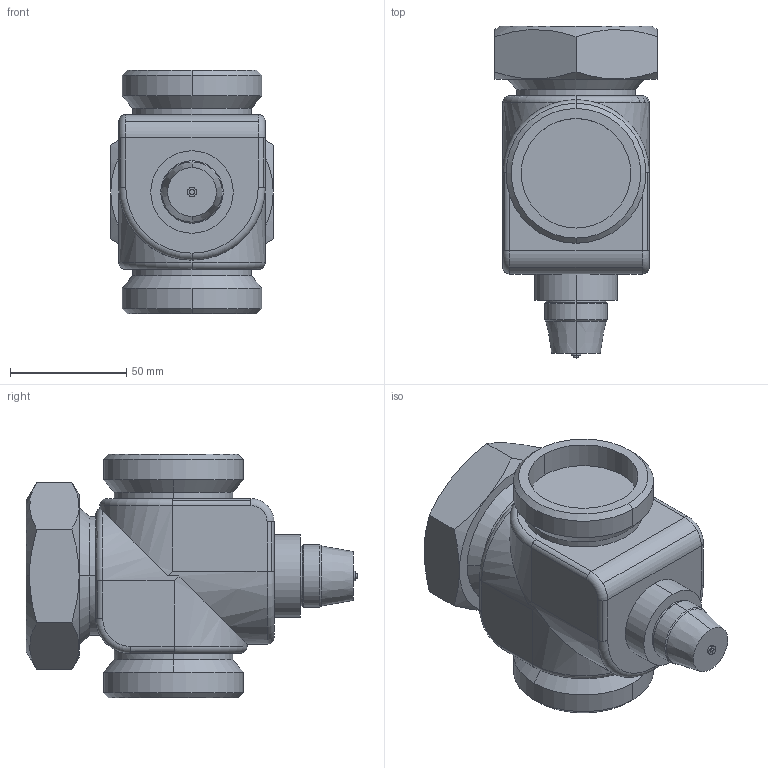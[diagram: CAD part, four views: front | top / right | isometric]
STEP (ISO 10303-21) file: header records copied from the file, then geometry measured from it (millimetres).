
FILE_DESCRIPTION((''),'2;1');
FILE_NAME('000163.stp','2006-09-29T17:20:02',(''),(''),'Mechanical Desktop 2006','Mechanical Desktop 2006',', , ');
FILE_SCHEMA(('AUTOMOTIVE_DESIGN { 1 2 10303 214 0 1 1 1 }'));
Length unit declared in the file: millimetre
Products named in the file (1): Product
Bounding box: 70 x 143 x 105 mm (x, y, z)
Volume: 458186.8 mm3; surface area: 73663.6 mm2
Topology: 11 solids, 11 shells, 127 faces, 277 edges, 174 vertices
Faces by surface type: cylinder 44, plane 29, bspline 28, cone 14, torus 12
Entity records: 3929 total; most frequent: CARTESIAN_POINT 1149, DIRECTION 582, ORIENTED_EDGE 554, EDGE_CURVE 277, AXIS2_PLACEMENT_3D 241, VERTEX_POINT 174, EDGE_LOOP 135, CIRCLE 134
